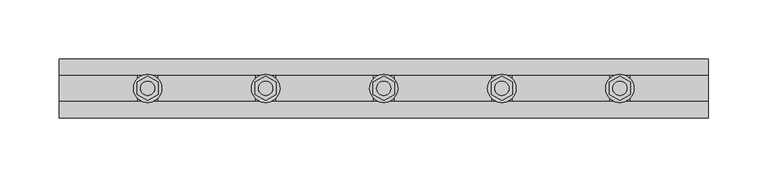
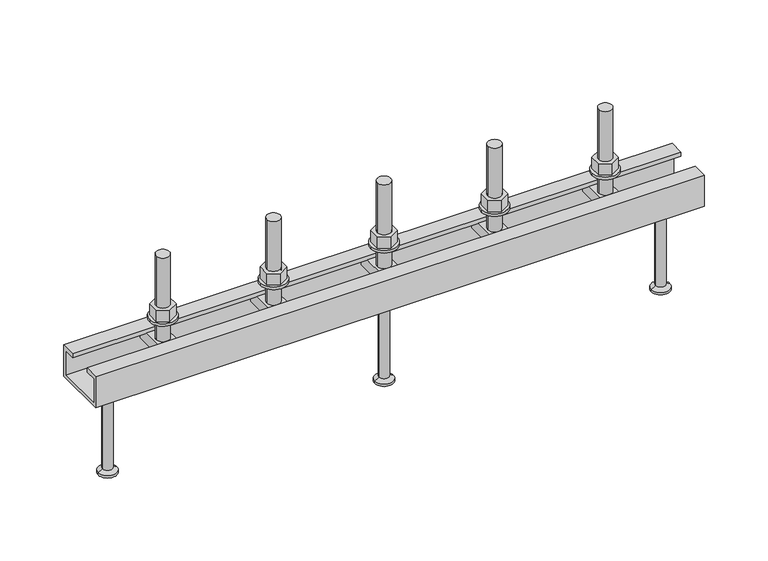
"""IFC4 building model written with IfcOpenShell, lengths in millimetres: fastener geometry, JTA-W JORDAHL® AnchorChannels : JTA-W L=550 mm."""

from ifc_helpers import new_model, si_unit, point, frame, frame_2d, origin, place, context, project, spatial, polyline, circle_curve, trimmed, segment, composite_curve, outline, extrude, source, transform, mapped, element, save
from ifc_brep_helpers import plane_surface, cylinder_surface, revolved_surface, advanced_brep


def fastener_85eb7262(model_context):
    return source(origin(), model_context, "Body", "SolidModel", [
        extrude(outline(polyline([(375.0, -10.3923048), (366.0, -5.1961524), (366.0, 5.1961524), (375.0, 10.3923048), (384.0, 5.1961524), (384.0, -5.1961524), (375.0, -10.3923048)]), holes=[composite_curve([segment(trimmed(circle_curve(frame_2d((375.0, 0.0)), 6.0), [point((369.0, 0.0))], [point((381.0, 0.0))], True, "CARTESIAN"), True, "CONTINUOUS"), segment(trimmed(circle_curve(frame_2d((375.0, 0.0)), 6.0), [point((381.0, 0.0))], [point((369.0, 0.0))], True, "CARTESIAN"), True, "CONTINUOUS")], self_intersect=False)]), frame((0.0, 0.0, 17.5), z_axis=(0.0, 0.0, 1.0), x_axis=(1.0, 0.0, 0.0)), (0.0, 0.0, 1.0), 10.8),
        extrude(outline(composite_curve([segment(trimmed(circle_curve(frame_2d((375.0, 0.0)), 12.0), [point((363.0, 0.0))], [point((387.0, 0.0))], False, "CARTESIAN"), True, "CONTINUOUS"), segment(trimmed(circle_curve(frame_2d((375.0, 0.0)), 12.0), [point((387.0, 0.0))], [point((363.0, 0.0))], False, "CARTESIAN"), True, "CONTINUOUS")], self_intersect=False), holes=[composite_curve([segment(trimmed(circle_curve(frame_2d((375.0, 0.0)), 6.5), [point((368.5, 0.0))], [point((381.5, 0.0))], True, "CARTESIAN"), True, "CONTINUOUS"), segment(trimmed(circle_curve(frame_2d((375.0, 0.0)), 6.5), [point((381.5, 0.0))], [point((368.5, 0.0))], True, "CARTESIAN"), True, "CONTINUOUS")], self_intersect=False)]), frame((0.0, 0.0, 15.0), z_axis=(0.0, 0.0, 1.0), x_axis=(1.0, 0.0, 0.0)), (0.0, 0.0, 1.0), 2.5),
        extrude(outline(polyline([(275.0, -10.3923048), (266.0, -5.1961524), (266.0, 5.1961524), (275.0, 10.3923048), (284.0, 5.1961524), (284.0, -5.1961524), (275.0, -10.3923048)]), holes=[composite_curve([segment(trimmed(circle_curve(frame_2d((275.0, 0.0)), 6.0), [point((269.0, 0.0))], [point((281.0, 0.0))], True, "CARTESIAN"), True, "CONTINUOUS"), segment(trimmed(circle_curve(frame_2d((275.0, 0.0)), 6.0), [point((281.0, 0.0))], [point((269.0, 0.0))], True, "CARTESIAN"), True, "CONTINUOUS")], self_intersect=False)]), frame((0.0, 0.0, 17.5), z_axis=(0.0, 0.0, 1.0), x_axis=(1.0, 0.0, 0.0)), (0.0, 0.0, 1.0), 10.8),
        extrude(outline(composite_curve([segment(trimmed(circle_curve(frame_2d((275.0, 0.0)), 12.0), [point((263.0, 0.0))], [point((287.0, 0.0))], False, "CARTESIAN"), True, "CONTINUOUS"), segment(trimmed(circle_curve(frame_2d((275.0, 0.0)), 12.0), [point((287.0, 0.0))], [point((263.0, 0.0))], False, "CARTESIAN"), True, "CONTINUOUS")], self_intersect=False), holes=[composite_curve([segment(trimmed(circle_curve(frame_2d((275.0, 0.0)), 6.5), [point((268.5, 0.0))], [point((281.5, 0.0))], True, "CARTESIAN"), True, "CONTINUOUS"), segment(trimmed(circle_curve(frame_2d((275.0, 0.0)), 6.5), [point((281.5, 0.0))], [point((268.5, 0.0))], True, "CARTESIAN"), True, "CONTINUOUS")], self_intersect=False)]), frame((0.0, 0.0, 15.0), z_axis=(0.0, 0.0, 1.0), x_axis=(1.0, 0.0, 0.0)), (0.0, 0.0, 1.0), 2.5),
        extrude(outline(polyline([(175.0, -10.3923048), (166.0, -5.1961524), (166.0, 5.1961524), (175.0, 10.3923048), (184.0, 5.1961524), (184.0, -5.1961524), (175.0, -10.3923048)]), holes=[composite_curve([segment(trimmed(circle_curve(frame_2d((175.0, 0.0)), 6.0), [point((169.0, 0.0))], [point((181.0, 0.0))], True, "CARTESIAN"), True, "CONTINUOUS"), segment(trimmed(circle_curve(frame_2d((175.0, 0.0)), 6.0), [point((181.0, 0.0))], [point((169.0, 0.0))], True, "CARTESIAN"), True, "CONTINUOUS")], self_intersect=False)]), frame((0.0, 0.0, 17.5), z_axis=(0.0, 0.0, 1.0), x_axis=(1.0, 0.0, 0.0)), (0.0, 0.0, 1.0), 10.8),
        extrude(outline(composite_curve([segment(trimmed(circle_curve(frame_2d((175.0, 0.0)), 12.0), [point((163.0, 0.0))], [point((187.0, 0.0))], False, "CARTESIAN"), True, "CONTINUOUS"), segment(trimmed(circle_curve(frame_2d((175.0, 0.0)), 12.0), [point((187.0, 0.0))], [point((163.0, 0.0))], False, "CARTESIAN"), True, "CONTINUOUS")], self_intersect=False), holes=[composite_curve([segment(trimmed(circle_curve(frame_2d((175.0, 0.0)), 6.5), [point((168.5, 0.0))], [point((181.5, 0.0))], True, "CARTESIAN"), True, "CONTINUOUS"), segment(trimmed(circle_curve(frame_2d((175.0, 0.0)), 6.5), [point((181.5, 0.0))], [point((168.5, 0.0))], True, "CARTESIAN"), True, "CONTINUOUS")], self_intersect=False)]), frame((0.0, 0.0, 15.0), z_axis=(0.0, 0.0, 1.0), x_axis=(1.0, 0.0, 0.0)), (0.0, 0.0, 1.0), 2.5),
        advanced_brep(
        [(383.5, -20.7, -4.0), (383.5, -20.7, -14.0), (383.5, 20.7, -14.0), (383.5, 20.7, -4.0), (366.5, -20.7, -4.0), (366.5, 20.7, -4.0), (366.5, 20.7, -14.0), (366.5, -20.7, -14.0), (381.0, 0.0, -4.0), (369.0, 0.0, -4.0), (369.0, 0.0, 76.0), (381.0, 0.0, 76.0)],
        [
            (0, 1),
            (1, 2),
            (2, 3),
            (3, 0),
            (4, 5),
            (5, 6),
            (6, 7),
            (7, 4),
            (3, 5),
            (4, 0),
            (8, 9, circle_curve(frame((375.0, 0.0, -4.0), z_axis=(0.0, 0.0, -1.0), x_axis=(1.0, 0.0, 0.0)), 6.0)),
            (9, 8, circle_curve(frame((375.0, 0.0, -4.0), z_axis=(0.0, 0.0, -1.0), x_axis=(1.0, 0.0, 0.0)), 6.0)),
            (2, 6),
            (1, 7),
            (10, 11, circle_curve(frame((375.0, 0.0, 76.0), z_axis=(0.0, 0.0, 1.0), x_axis=(1.0, 0.0, 0.0)), 6.0)),
            (11, 10, circle_curve(frame((375.0, 0.0, 76.0), z_axis=(0.0, 0.0, 1.0), x_axis=(1.0, 0.0, 0.0)), 6.0)),
            (11, 8),
            (9, 10),
        ],
        [
            plane_surface(frame((383.5, 20.7, -4.0), z_axis=(1.0, 0.0, 0.0), x_axis=(0.0, 1.0, 0.0))),
            plane_surface(frame((366.5, 20.7, -4.0), z_axis=(-1.0, 0.0, 0.0), x_axis=(0.0, -1.0, 0.0))),
            plane_surface(frame((383.5, -20.7, -4.0), z_axis=(0.0, 0.0, 1.0), x_axis=(-1.0, 0.0, 0.0))),
            plane_surface(frame((383.5, 20.7, -4.0), z_axis=(0.0, 1.0, 0.0), x_axis=(-1.0, 0.0, 0.0))),
            plane_surface(frame((383.5, 20.7, -14.0), z_axis=(0.0, 0.0, -1.0), x_axis=(-1.0, 0.0, 0.0))),
            plane_surface(frame((383.5, -20.7, -14.0), z_axis=(0.0, -1.0, 0.0), x_axis=(-1.0, 0.0, 0.0))),
            plane_surface(frame((381.0, 0.0, 76.0), z_axis=(0.0, 0.0, 1.0), x_axis=(0.0, -1.0, 0.0))),
            cylinder_surface(frame((375.0, 0.0, -4.0), z_axis=(0.0, 0.0, 1.0), x_axis=(1.0, 0.0, 0.0)), 6.0),
        ],
        [
            (0, [[1, 2, 3, 4]]),
            (1, [[5, 6, 7, 8]]),
            (2, [[9, -5, 10, -4], [11, 12]]),
            (3, [[13, -6, -9, -3]]),
            (4, [[14, -7, -13, -2]]),
            (5, [[-10, -8, -14, -1]]),
            (6, [[15, 16]]),
            (7, [[17, -12, 18, -16]]),
            (7, [[-18, -11, -17, -15]]),
        ],
    ),
        advanced_brep(
        [(283.5, -20.7, -4.0), (283.5, -20.7, -14.0), (283.5, 20.7, -14.0), (283.5, 20.7, -4.0), (266.5, -20.7, -4.0), (266.5, 20.7, -4.0), (266.5, 20.7, -14.0), (266.5, -20.7, -14.0), (281.0, 0.0, -4.0), (269.0, 0.0, -4.0), (269.0, 0.0, 76.0), (281.0, 0.0, 76.0)],
        [
            (0, 1),
            (1, 2),
            (2, 3),
            (3, 0),
            (4, 5),
            (5, 6),
            (6, 7),
            (7, 4),
            (3, 5),
            (4, 0),
            (8, 9, circle_curve(frame((275.0, 0.0, -4.0), z_axis=(0.0, 0.0, -1.0), x_axis=(1.0, 0.0, 0.0)), 6.0)),
            (9, 8, circle_curve(frame((275.0, 0.0, -4.0), z_axis=(0.0, 0.0, -1.0), x_axis=(1.0, 0.0, 0.0)), 6.0)),
            (2, 6),
            (1, 7),
            (10, 11, circle_curve(frame((275.0, 0.0, 76.0), z_axis=(0.0, 0.0, 1.0), x_axis=(1.0, 0.0, 0.0)), 6.0)),
            (11, 10, circle_curve(frame((275.0, 0.0, 76.0), z_axis=(0.0, 0.0, 1.0), x_axis=(1.0, 0.0, 0.0)), 6.0)),
            (11, 8),
            (9, 10),
        ],
        [
            plane_surface(frame((283.5, 20.7, -4.0), z_axis=(1.0, 0.0, 0.0), x_axis=(0.0, 1.0, 0.0))),
            plane_surface(frame((266.5, 20.7, -4.0), z_axis=(-1.0, 0.0, 0.0), x_axis=(0.0, -1.0, 0.0))),
            plane_surface(frame((283.5, -20.7, -4.0), z_axis=(0.0, 0.0, 1.0), x_axis=(-1.0, 0.0, 0.0))),
            plane_surface(frame((283.5, 20.7, -4.0), z_axis=(0.0, 1.0, 0.0), x_axis=(-1.0, 0.0, 0.0))),
            plane_surface(frame((283.5, 20.7, -14.0), z_axis=(0.0, 0.0, -1.0), x_axis=(-1.0, 0.0, 0.0))),
            plane_surface(frame((283.5, -20.7, -14.0), z_axis=(0.0, -1.0, 0.0), x_axis=(-1.0, 0.0, 0.0))),
            plane_surface(frame((281.0, 0.0, 76.0), z_axis=(0.0, 0.0, 1.0), x_axis=(0.0, -1.0, 0.0))),
            cylinder_surface(frame((275.0, 0.0, -4.0), z_axis=(0.0, 0.0, 1.0), x_axis=(1.0, 0.0, 0.0)), 6.0),
        ],
        [
            (0, [[1, 2, 3, 4]]),
            (1, [[5, 6, 7, 8]]),
            (2, [[9, -5, 10, -4], [11, 12]]),
            (3, [[13, -6, -9, -3]]),
            (4, [[14, -7, -13, -2]]),
            (5, [[-10, -8, -14, -1]]),
            (6, [[15, 16]]),
            (7, [[17, -12, 18, -16]]),
            (7, [[-18, -11, -17, -15]]),
        ],
    ),
        advanced_brep(
        [(183.5, -20.7, -4.0), (183.5, -20.7, -14.0), (183.5, 20.7, -14.0), (183.5, 20.7, -4.0), (166.5, -20.7, -4.0), (166.5, 20.7, -4.0), (166.5, 20.7, -14.0), (166.5, -20.7, -14.0), (181.0, 0.0, -4.0), (169.0, 0.0, -4.0), (169.0, 0.0, 76.0), (181.0, 0.0, 76.0)],
        [
            (0, 1),
            (1, 2),
            (2, 3),
            (3, 0),
            (4, 5),
            (5, 6),
            (6, 7),
            (7, 4),
            (3, 5),
            (4, 0),
            (8, 9, circle_curve(frame((175.0, 0.0, -4.0), z_axis=(0.0, 0.0, -1.0), x_axis=(1.0, 0.0, 0.0)), 6.0)),
            (9, 8, circle_curve(frame((175.0, 0.0, -4.0), z_axis=(0.0, 0.0, -1.0), x_axis=(1.0, 0.0, 0.0)), 6.0)),
            (2, 6),
            (1, 7),
            (10, 11, circle_curve(frame((175.0, 0.0, 76.0), z_axis=(0.0, 0.0, 1.0), x_axis=(1.0, 0.0, 0.0)), 6.0)),
            (11, 10, circle_curve(frame((175.0, 0.0, 76.0), z_axis=(0.0, 0.0, 1.0), x_axis=(1.0, 0.0, 0.0)), 6.0)),
            (11, 8),
            (9, 10),
        ],
        [
            plane_surface(frame((183.5, 20.7, -4.0), z_axis=(1.0, 0.0, 0.0), x_axis=(0.0, 1.0, 0.0))),
            plane_surface(frame((166.5, 20.7, -4.0), z_axis=(-1.0, 0.0, 0.0), x_axis=(0.0, -1.0, 0.0))),
            plane_surface(frame((183.5, -20.7, -4.0), z_axis=(0.0, 0.0, 1.0), x_axis=(-1.0, 0.0, 0.0))),
            plane_surface(frame((183.5, 20.7, -4.0), z_axis=(0.0, 1.0, 0.0), x_axis=(-1.0, 0.0, 0.0))),
            plane_surface(frame((183.5, 20.7, -14.0), z_axis=(0.0, 0.0, -1.0), x_axis=(-1.0, 0.0, 0.0))),
            plane_surface(frame((183.5, -20.7, -14.0), z_axis=(0.0, -1.0, 0.0), x_axis=(-1.0, 0.0, 0.0))),
            plane_surface(frame((181.0, 0.0, 76.0), z_axis=(0.0, 0.0, 1.0), x_axis=(0.0, -1.0, 0.0))),
            cylinder_surface(frame((175.0, 0.0, -4.0), z_axis=(0.0, 0.0, 1.0), x_axis=(1.0, 0.0, 0.0)), 6.0),
        ],
        [
            (0, [[1, 2, 3, 4]]),
            (1, [[5, 6, 7, 8]]),
            (2, [[9, -5, 10, -4], [11, 12]]),
            (3, [[13, -6, -9, -3]]),
            (4, [[14, -7, -13, -2]]),
            (5, [[-10, -8, -14, -1]]),
            (6, [[15, 16]]),
            (7, [[17, -12, 18, -16]]),
            (7, [[-18, -11, -17, -15]]),
        ],
    ),
        advanced_brep(
        [(275.0, 0.0, -30.0), (261.5, 0.0, -30.0), (288.5, 0.0, -30.0), (266.5, 0.0, -115.0), (275.0, 0.0, -115.0), (283.5, 0.0, -115.0), (266.5, 0.0, -113.0), (283.5, 0.0, -113.0), (270.5, 0.0, -110.6905989), (279.5, 0.0, -110.6905989), (270.5, 0.0, -32.5), (279.5, 0.0, -32.5)],
        [
            (0, 1),
            (1, 2, circle_curve(frame((275.0, 0.0, -30.0), z_axis=(0.0, 0.0, 1.0), x_axis=(1.0, 0.0, 0.0)), 13.5)),
            (2, 0),
            (2, 1, circle_curve(frame((275.0, 0.0, -30.0), z_axis=(0.0, 0.0, 1.0), x_axis=(1.0, 0.0, 0.0)), 13.5)),
            (3, 4),
            (4, 5),
            (5, 3, circle_curve(frame((275.0, 0.0, -115.0), z_axis=(0.0, 0.0, -1.0), x_axis=(1.0, 0.0, 0.0)), 8.5)),
            (3, 5, circle_curve(frame((275.0, 0.0, -115.0), z_axis=(0.0, 0.0, -1.0), x_axis=(1.0, 0.0, 0.0)), 8.5)),
            (6, 3),
            (5, 7),
            (7, 6, circle_curve(frame((275.0, 0.0, -113.0), z_axis=(0.0, 0.0, -1.0), x_axis=(1.0, 0.0, 0.0)), 8.5)),
            (6, 7, circle_curve(frame((275.0, 0.0, -113.0), z_axis=(0.0, 0.0, -1.0), x_axis=(1.0, 0.0, 0.0)), 8.5)),
            (8, 6),
            (7, 9),
            (9, 8, circle_curve(frame((275.0, 0.0, -110.6905989), z_axis=(0.0, 0.0, -1.0), x_axis=(1.0, 0.0, 0.0)), 4.5)),
            (8, 9, circle_curve(frame((275.0, 0.0, -110.6905989), z_axis=(0.0, 0.0, -1.0), x_axis=(1.0, 0.0, 0.0)), 4.5)),
            (10, 8),
            (9, 11),
            (11, 10, circle_curve(frame((275.0, 0.0, -32.5), z_axis=(0.0, 0.0, -1.0), x_axis=(1.0, 0.0, 0.0)), 4.5)),
            (10, 11, circle_curve(frame((275.0, 0.0, -32.5), z_axis=(0.0, 0.0, -1.0), x_axis=(1.0, 0.0, 0.0)), 4.5)),
            (1, 10),
            (11, 2),
        ],
        [
            plane_surface(frame((275.0, 0.0, -30.0), z_axis=(0.0, 0.0, 1.0), x_axis=(1.0, 0.0, 0.0))),
            plane_surface(frame((275.0, 0.0, -115.0), z_axis=(0.0, 0.0, -1.0), x_axis=(1.0, 0.0, 0.0))),
            cylinder_surface(frame((275.0, 0.0, 2299.3150031), z_axis=(0.0, 0.0, 1.0), x_axis=(1.0, 0.0, 0.0)), 8.5),
            revolved_surface(polyline([(283.5, 0.0, -113.0), (279.5, 0.0, -110.6905989)]), (275.0, 0.0, 2299.3150031), (0.0, 0.0, 1.0)),
            cylinder_surface(frame((275.0, 0.0, 2299.3150031), z_axis=(0.0, 0.0, 1.0), x_axis=(1.0, 0.0, 0.0)), 4.5),
            revolved_surface(polyline([(279.5, 0.0, -32.5), (288.5, 0.0, -30.0)]), (275.0, 0.0, 2299.3150031), (0.0, 0.0, 1.0)),
        ],
        [
            (0, [[1, 2, 3]]),
            (0, [[-3, 4, -1]]),
            (1, [[5, 6, 7]]),
            (1, [[-6, -5, 8]]),
            (2, [[9, -7, 10, 11]]),
            (2, [[-10, -8, -9, 12]]),
            (3, [[13, -11, 14, 15]]),
            (3, [[-14, -12, -13, 16]]),
            (4, [[17, -15, 18, 19]]),
            (4, [[-18, -16, -17, 20]]),
            (5, [[21, -19, 22, -2]]),
            (5, [[-22, -20, -21, -4]]),
        ],
    ),
        extrude(outline(polyline([(475.0, -10.3923048), (466.0, -5.1961524), (466.0, 5.1961524), (475.0, 10.3923048), (484.0, 5.1961524), (484.0, -5.1961524), (475.0, -10.3923048)]), holes=[composite_curve([segment(trimmed(circle_curve(frame_2d((475.0, 0.0)), 6.0), [point((469.0, 0.0))], [point((481.0, 0.0))], True, "CARTESIAN"), True, "CONTINUOUS"), segment(trimmed(circle_curve(frame_2d((475.0, 0.0)), 6.0), [point((481.0, 0.0))], [point((469.0, 0.0))], True, "CARTESIAN"), True, "CONTINUOUS")], self_intersect=False)]), frame((0.0, 0.0, 17.5), z_axis=(0.0, 0.0, 1.0), x_axis=(1.0, 0.0, 0.0)), (0.0, 0.0, 1.0), 10.8),
        extrude(outline(composite_curve([segment(trimmed(circle_curve(frame_2d((475.0, 0.0)), 12.0), [point((463.0, 0.0))], [point((487.0, 0.0))], False, "CARTESIAN"), True, "CONTINUOUS"), segment(trimmed(circle_curve(frame_2d((475.0, 0.0)), 12.0), [point((487.0, 0.0))], [point((463.0, 0.0))], False, "CARTESIAN"), True, "CONTINUOUS")], self_intersect=False), holes=[composite_curve([segment(trimmed(circle_curve(frame_2d((475.0, 0.0)), 6.5), [point((468.5, 0.0))], [point((481.5, 0.0))], True, "CARTESIAN"), True, "CONTINUOUS"), segment(trimmed(circle_curve(frame_2d((475.0, 0.0)), 6.5), [point((481.5, 0.0))], [point((468.5, 0.0))], True, "CARTESIAN"), True, "CONTINUOUS")], self_intersect=False)]), frame((0.0, 0.0, 15.0), z_axis=(0.0, 0.0, 1.0), x_axis=(1.0, 0.0, 0.0)), (0.0, 0.0, 1.0), 2.5),
        extrude(outline(polyline([(75.0, -10.3923048), (66.0, -5.1961524), (66.0, 5.1961524), (75.0, 10.3923048), (84.0, 5.1961524), (84.0, -5.1961524), (75.0, -10.3923048)]), holes=[composite_curve([segment(trimmed(circle_curve(frame_2d((75.0, 0.0)), 6.0), [point((69.0, 0.0))], [point((81.0, 0.0))], True, "CARTESIAN"), True, "CONTINUOUS"), segment(trimmed(circle_curve(frame_2d((75.0, 0.0)), 6.0), [point((81.0, 0.0))], [point((69.0, 0.0))], True, "CARTESIAN"), True, "CONTINUOUS")], self_intersect=False)]), frame((0.0, 0.0, 17.5), z_axis=(0.0, 0.0, 1.0), x_axis=(1.0, 0.0, 0.0)), (0.0, 0.0, 1.0), 10.8),
        extrude(outline(composite_curve([segment(trimmed(circle_curve(frame_2d((75.0, 0.0)), 12.0), [point((63.0, 0.0))], [point((87.0, 0.0))], False, "CARTESIAN"), True, "CONTINUOUS"), segment(trimmed(circle_curve(frame_2d((75.0, 0.0)), 12.0), [point((87.0, 0.0))], [point((63.0, 0.0))], False, "CARTESIAN"), True, "CONTINUOUS")], self_intersect=False), holes=[composite_curve([segment(trimmed(circle_curve(frame_2d((75.0, 0.0)), 6.5), [point((68.5, 0.0))], [point((81.5, 0.0))], True, "CARTESIAN"), True, "CONTINUOUS"), segment(trimmed(circle_curve(frame_2d((75.0, 0.0)), 6.5), [point((81.5, 0.0))], [point((68.5, 0.0))], True, "CARTESIAN"), True, "CONTINUOUS")], self_intersect=False)]), frame((0.0, 0.0, 15.0), z_axis=(0.0, 0.0, 1.0), x_axis=(1.0, 0.0, 0.0)), (0.0, 0.0, 1.0), 2.5),
        advanced_brep(
        [(483.5, -20.7, -4.0), (483.5, -20.7, -14.0), (483.5, 20.7, -14.0), (483.5, 20.7, -4.0), (466.5, -20.7, -4.0), (466.5, 20.7, -4.0), (466.5, 20.7, -14.0), (466.5, -20.7, -14.0), (481.0, 0.0, -4.0), (469.0, 0.0, -4.0), (469.0, 0.0, 76.0), (481.0, 0.0, 76.0)],
        [
            (0, 1),
            (1, 2),
            (2, 3),
            (3, 0),
            (4, 5),
            (5, 6),
            (6, 7),
            (7, 4),
            (3, 5),
            (4, 0),
            (8, 9, circle_curve(frame((475.0, 0.0, -4.0), z_axis=(0.0, 0.0, -1.0), x_axis=(1.0, 0.0, 0.0)), 6.0)),
            (9, 8, circle_curve(frame((475.0, 0.0, -4.0), z_axis=(0.0, 0.0, -1.0), x_axis=(1.0, 0.0, 0.0)), 6.0)),
            (2, 6),
            (1, 7),
            (10, 11, circle_curve(frame((475.0, 0.0, 76.0), z_axis=(0.0, 0.0, 1.0), x_axis=(1.0, 0.0, 0.0)), 6.0)),
            (11, 10, circle_curve(frame((475.0, 0.0, 76.0), z_axis=(0.0, 0.0, 1.0), x_axis=(1.0, 0.0, 0.0)), 6.0)),
            (11, 8),
            (9, 10),
        ],
        [
            plane_surface(frame((483.5, 20.7, -4.0), z_axis=(1.0, 0.0, 0.0), x_axis=(0.0, 1.0, 0.0))),
            plane_surface(frame((466.5, 20.7, -4.0), z_axis=(-1.0, 0.0, 0.0), x_axis=(0.0, -1.0, 0.0))),
            plane_surface(frame((483.5, -20.7, -4.0), z_axis=(0.0, 0.0, 1.0), x_axis=(-1.0, 0.0, 0.0))),
            plane_surface(frame((483.5, 20.7, -4.0), z_axis=(0.0, 1.0, 0.0), x_axis=(-1.0, 0.0, 0.0))),
            plane_surface(frame((483.5, 20.7, -14.0), z_axis=(0.0, 0.0, -1.0), x_axis=(-1.0, 0.0, 0.0))),
            plane_surface(frame((483.5, -20.7, -14.0), z_axis=(0.0, -1.0, 0.0), x_axis=(-1.0, 0.0, 0.0))),
            plane_surface(frame((481.0, 0.0, 76.0), z_axis=(0.0, 0.0, 1.0), x_axis=(0.0, -1.0, 0.0))),
            cylinder_surface(frame((475.0, 0.0, -4.0), z_axis=(0.0, 0.0, 1.0), x_axis=(1.0, 0.0, 0.0)), 6.0),
        ],
        [
            (0, [[1, 2, 3, 4]]),
            (1, [[5, 6, 7, 8]]),
            (2, [[9, -5, 10, -4], [11, 12]]),
            (3, [[13, -6, -9, -3]]),
            (4, [[14, -7, -13, -2]]),
            (5, [[-10, -8, -14, -1]]),
            (6, [[15, 16]]),
            (7, [[17, -12, 18, -16]]),
            (7, [[-18, -11, -17, -15]]),
        ],
    ),
        advanced_brep(
        [(83.5, -20.7, -4.0), (83.5, -20.7, -14.0), (83.5, 20.7, -14.0), (83.5, 20.7, -4.0), (66.5, -20.7, -4.0), (66.5, 20.7, -4.0), (66.5, 20.7, -14.0), (66.5, -20.7, -14.0), (81.0, 0.0, -4.0), (69.0, 0.0, -4.0), (69.0, 0.0, 76.0), (81.0, 0.0, 76.0)],
        [
            (0, 1),
            (1, 2),
            (2, 3),
            (3, 0),
            (4, 5),
            (5, 6),
            (6, 7),
            (7, 4),
            (3, 5),
            (4, 0),
            (8, 9, circle_curve(frame((75.0, 0.0, -4.0), z_axis=(0.0, 0.0, -1.0), x_axis=(1.0, 0.0, 0.0)), 6.0)),
            (9, 8, circle_curve(frame((75.0, 0.0, -4.0), z_axis=(0.0, 0.0, -1.0), x_axis=(1.0, 0.0, 0.0)), 6.0)),
            (2, 6),
            (1, 7),
            (10, 11, circle_curve(frame((75.0, 0.0, 76.0), z_axis=(0.0, 0.0, 1.0), x_axis=(1.0, 0.0, 0.0)), 6.0)),
            (11, 10, circle_curve(frame((75.0, 0.0, 76.0), z_axis=(0.0, 0.0, 1.0), x_axis=(1.0, 0.0, 0.0)), 6.0)),
            (11, 8),
            (9, 10),
        ],
        [
            plane_surface(frame((83.5, 20.7, -4.0), z_axis=(1.0, 0.0, 0.0), x_axis=(0.0, 1.0, 0.0))),
            plane_surface(frame((66.5, 20.7, -4.0), z_axis=(-1.0, 0.0, 0.0), x_axis=(0.0, -1.0, 0.0))),
            plane_surface(frame((83.5, -20.7, -4.0), z_axis=(0.0, 0.0, 1.0), x_axis=(-1.0, 0.0, 0.0))),
            plane_surface(frame((83.5, 20.7, -4.0), z_axis=(0.0, 1.0, 0.0), x_axis=(-1.0, 0.0, 0.0))),
            plane_surface(frame((83.5, 20.7, -14.0), z_axis=(0.0, 0.0, -1.0), x_axis=(-1.0, 0.0, 0.0))),
            plane_surface(frame((83.5, -20.7, -14.0), z_axis=(0.0, -1.0, 0.0), x_axis=(-1.0, 0.0, 0.0))),
            plane_surface(frame((81.0, 0.0, 76.0), z_axis=(0.0, 0.0, 1.0), x_axis=(0.0, -1.0, 0.0))),
            cylinder_surface(frame((75.0, 0.0, -4.0), z_axis=(0.0, 0.0, 1.0), x_axis=(1.0, 0.0, 0.0)), 6.0),
        ],
        [
            (0, [[1, 2, 3, 4]]),
            (1, [[5, 6, 7, 8]]),
            (2, [[9, -5, 10, -4], [11, 12]]),
            (3, [[13, -6, -9, -3]]),
            (4, [[14, -7, -13, -2]]),
            (5, [[-10, -8, -14, -1]]),
            (6, [[15, 16]]),
            (7, [[17, -12, 18, -16]]),
            (7, [[-18, -11, -17, -15]]),
        ],
    ),
        advanced_brep(
        [(525.0, 0.0, -30.0), (511.5, 0.0, -30.0), (538.5, 0.0, -30.0), (516.5, 0.0, -115.0), (525.0, 0.0, -115.0), (533.5, 0.0, -115.0), (516.5, 0.0, -113.0), (533.5, 0.0, -113.0), (520.5, 0.0, -110.6905989), (529.5, 0.0, -110.6905989), (520.5, 0.0, -32.5), (529.5, 0.0, -32.5)],
        [
            (0, 1),
            (1, 2, circle_curve(frame((525.0, 0.0, -30.0), z_axis=(0.0, 0.0, 1.0), x_axis=(1.0, 0.0, 0.0)), 13.5)),
            (2, 0),
            (2, 1, circle_curve(frame((525.0, 0.0, -30.0), z_axis=(0.0, 0.0, 1.0), x_axis=(1.0, 0.0, 0.0)), 13.5)),
            (3, 4),
            (4, 5),
            (5, 3, circle_curve(frame((525.0, 0.0, -115.0), z_axis=(0.0, 0.0, -1.0), x_axis=(1.0, 0.0, 0.0)), 8.5)),
            (3, 5, circle_curve(frame((525.0, 0.0, -115.0), z_axis=(0.0, 0.0, -1.0), x_axis=(1.0, 0.0, 0.0)), 8.5)),
            (6, 3),
            (5, 7),
            (7, 6, circle_curve(frame((525.0, 0.0, -113.0), z_axis=(0.0, 0.0, -1.0), x_axis=(1.0, 0.0, 0.0)), 8.5)),
            (6, 7, circle_curve(frame((525.0, 0.0, -113.0), z_axis=(0.0, 0.0, -1.0), x_axis=(1.0, 0.0, 0.0)), 8.5)),
            (8, 6),
            (7, 9),
            (9, 8, circle_curve(frame((525.0, 0.0, -110.6905989), z_axis=(0.0, 0.0, -1.0), x_axis=(1.0, 0.0, 0.0)), 4.5)),
            (8, 9, circle_curve(frame((525.0, 0.0, -110.6905989), z_axis=(0.0, 0.0, -1.0), x_axis=(1.0, 0.0, 0.0)), 4.5)),
            (10, 8),
            (9, 11),
            (11, 10, circle_curve(frame((525.0, 0.0, -32.5), z_axis=(0.0, 0.0, -1.0), x_axis=(1.0, 0.0, 0.0)), 4.5)),
            (10, 11, circle_curve(frame((525.0, 0.0, -32.5), z_axis=(0.0, 0.0, -1.0), x_axis=(1.0, 0.0, 0.0)), 4.5)),
            (1, 10),
            (11, 2),
        ],
        [
            plane_surface(frame((525.0, 0.0, -30.0), z_axis=(0.0, 0.0, 1.0), x_axis=(1.0, 0.0, 0.0))),
            plane_surface(frame((525.0, 0.0, -115.0), z_axis=(0.0, 0.0, -1.0), x_axis=(1.0, 0.0, 0.0))),
            cylinder_surface(frame((525.0, 0.0, 2299.3150031), z_axis=(0.0, 0.0, 1.0), x_axis=(1.0, 0.0, 0.0)), 8.5),
            revolved_surface(polyline([(533.5, 0.0, -113.0), (529.5, 0.0, -110.6905989)]), (525.0, 0.0, 2299.3150031), (0.0, 0.0, 1.0)),
            cylinder_surface(frame((525.0, 0.0, 2299.3150031), z_axis=(0.0, 0.0, 1.0), x_axis=(1.0, 0.0, 0.0)), 4.5),
            revolved_surface(polyline([(529.5, 0.0, -32.5), (538.5, 0.0, -30.0)]), (525.0, 0.0, 2299.3150031), (0.0, 0.0, 1.0)),
        ],
        [
            (0, [[1, 2, 3]]),
            (0, [[-3, 4, -1]]),
            (1, [[5, 6, 7]]),
            (1, [[-6, -5, 8]]),
            (2, [[9, -7, 10, 11]]),
            (2, [[-10, -8, -9, 12]]),
            (3, [[13, -11, 14, 15]]),
            (3, [[-14, -12, -13, 16]]),
            (4, [[17, -15, 18, 19]]),
            (4, [[-18, -16, -17, 20]]),
            (5, [[21, -19, 22, -2]]),
            (5, [[-22, -20, -21, -4]]),
        ],
    ),
        advanced_brep(
        [(25.0, 0.0, -30.0), (11.5, 0.0, -30.0), (38.5, 0.0, -30.0), (16.5, 0.0, -115.0), (25.0, 0.0, -115.0), (33.5, 0.0, -115.0), (16.5, 0.0, -113.0), (33.5, 0.0, -113.0), (20.5, 0.0, -110.6905989), (29.5, 0.0, -110.6905989), (20.5, 0.0, -32.5), (29.5, 0.0, -32.5)],
        [
            (0, 1),
            (1, 2, circle_curve(frame((25.0, 0.0, -30.0), z_axis=(0.0, 0.0, 1.0), x_axis=(1.0, 0.0, 0.0)), 13.5)),
            (2, 0),
            (2, 1, circle_curve(frame((25.0, 0.0, -30.0), z_axis=(0.0, 0.0, 1.0), x_axis=(1.0, 0.0, 0.0)), 13.5)),
            (3, 4),
            (4, 5),
            (5, 3, circle_curve(frame((25.0, 0.0, -115.0), z_axis=(0.0, 0.0, -1.0), x_axis=(1.0, 0.0, 0.0)), 8.5)),
            (3, 5, circle_curve(frame((25.0, 0.0, -115.0), z_axis=(0.0, 0.0, -1.0), x_axis=(1.0, 0.0, 0.0)), 8.5)),
            (6, 3),
            (5, 7),
            (7, 6, circle_curve(frame((25.0, 0.0, -113.0), z_axis=(0.0, 0.0, -1.0), x_axis=(1.0, 0.0, 0.0)), 8.5)),
            (6, 7, circle_curve(frame((25.0, 0.0, -113.0), z_axis=(0.0, 0.0, -1.0), x_axis=(1.0, 0.0, 0.0)), 8.5)),
            (8, 6),
            (7, 9),
            (9, 8, circle_curve(frame((25.0, 0.0, -110.6905989), z_axis=(0.0, 0.0, -1.0), x_axis=(1.0, 0.0, 0.0)), 4.5)),
            (8, 9, circle_curve(frame((25.0, 0.0, -110.6905989), z_axis=(0.0, 0.0, -1.0), x_axis=(1.0, 0.0, 0.0)), 4.5)),
            (10, 8),
            (9, 11),
            (11, 10, circle_curve(frame((25.0, 0.0, -32.5), z_axis=(0.0, 0.0, -1.0), x_axis=(1.0, 0.0, 0.0)), 4.5)),
            (10, 11, circle_curve(frame((25.0, 0.0, -32.5), z_axis=(0.0, 0.0, -1.0), x_axis=(1.0, 0.0, 0.0)), 4.5)),
            (1, 10),
            (11, 2),
        ],
        [
            plane_surface(frame((25.0, 0.0, -30.0), z_axis=(0.0, 0.0, 1.0), x_axis=(1.0, 0.0, 0.0))),
            plane_surface(frame((25.0, 0.0, -115.0), z_axis=(0.0, 0.0, -1.0), x_axis=(1.0, 0.0, 0.0))),
            cylinder_surface(frame((25.0, 0.0, 2299.3150031), z_axis=(0.0, 0.0, 1.0), x_axis=(1.0, 0.0, 0.0)), 8.5),
            revolved_surface(polyline([(33.5, 0.0, -113.0), (29.5, 0.0, -110.6905989)]), (25.0, 0.0, 2299.3150031), (0.0, 0.0, 1.0)),
            cylinder_surface(frame((25.0, 0.0, 2299.3150031), z_axis=(0.0, 0.0, 1.0), x_axis=(1.0, 0.0, 0.0)), 4.5),
            revolved_surface(polyline([(29.5, 0.0, -32.5), (38.5, 0.0, -30.0)]), (25.0, 0.0, 2299.3150031), (0.0, 0.0, 1.0)),
        ],
        [
            (0, [[1, 2, 3]]),
            (0, [[-3, 4, -1]]),
            (1, [[5, 6, 7]]),
            (1, [[-6, -5, 8]]),
            (2, [[9, -7, 10, 11]]),
            (2, [[-10, -8, -9, 12]]),
            (3, [[13, -11, 14, 15]]),
            (3, [[-14, -12, -13, 16]]),
            (4, [[17, -15, 18, 19]]),
            (4, [[-18, -16, -17, 20]]),
            (5, [[21, -19, 22, -2]]),
            (5, [[-22, -20, -21, -4]]),
        ],
    ),
        extrude(outline(polyline([(-25.0, 0.0), (-11.25, 0.0), (-11.25, -4.0), (-22.2, -4.0), (-22.2, -27.2), (22.2, -27.2), (22.2, -4.0), (11.25, -4.0), (11.25, 0.0), (25.0, 0.0), (25.0, -30.0), (-25.0, -30.0), (-25.0, 0.0)])), frame((0.0, 0.0, 0.0), z_axis=(1.0, 0.0, 0.0), x_axis=(0.0, 1.0, 0.0)), (0.0, 0.0, 1.0), 550.0),
    ])


if __name__ == "__main__":
    model = new_model("IFC4")
    model_context = context("Model", 3, world=origin())
    ifc_project = project(units=[si_unit("LENGTHUNIT", "METRE", prefix="MILLI")], contexts=[model_context])
    site = spatial("IfcSite", under=ifc_project)
    building = spatial("IfcBuilding", under=site)
    placement = place(None, origin())
    fastener_shape = fastener_85eb7262(model_context)
    element("IfcFastener", 1, ObjectType="JTA-W JORDAHL® AnchorChannels : JTA-W L=550 mm", at=placement, inside=building, context=model_context, shape_type="MappedRepresentation", body=[
        mapped(fastener_shape, transform((0.0, 0.0, 0.0), x_axis=(1.0, 0.0, 0.0), y_axis=(0.0, 1.0, 0.0), z_axis=(0.0, 0.0, 1.0))),
    ])
    save(model, "model.ifc")
